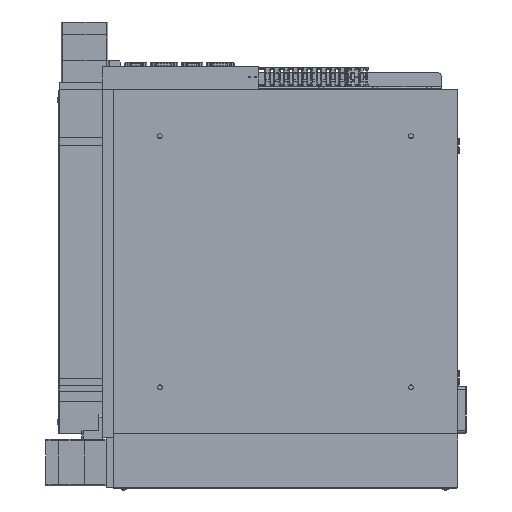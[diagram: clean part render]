
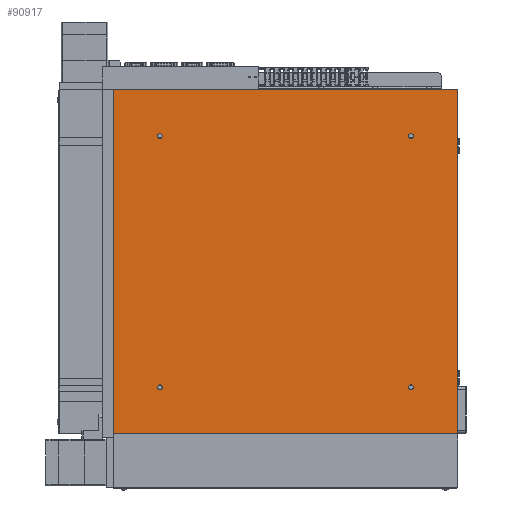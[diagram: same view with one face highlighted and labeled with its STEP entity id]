
A CAD part, front view. The second image highlights one B-rep face of the part: STEP entity #90917.
In plain terms, the highlighted planar face has unit normal (0, -1, 0).
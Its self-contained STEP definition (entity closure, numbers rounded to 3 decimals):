
#795 = EDGE_CURVE ( 'NONE', #26206, #36464, #74382, .T. ) ;
#935 = CARTESIAN_POINT ( 'NONE',  ( 175., 0., -178.3 ) ) ;
#1016 = ORIENTED_EDGE ( 'NONE', *, *, #795, .F. ) ;
#1356 = CARTESIAN_POINT ( 'NONE',  ( -240., 0., 240. ) ) ;
#1858 = CARTESIAN_POINT ( 'NONE',  ( 0., 0., 0. ) ) ;
#4284 = DIRECTION ( 'NONE',  ( 0., 1., 0. ) ) ;
#6906 = EDGE_CURVE ( 'NONE', #82538, #35343, #96440, .T. ) ;
#7181 = CARTESIAN_POINT ( 'NONE',  ( 240., 0., 240. ) ) ;
#7673 = CARTESIAN_POINT ( 'NONE',  ( -175., 0., 175. ) ) ;
#10388 = EDGE_CURVE ( 'NONE', #89513, #35816, #91982, .T. ) ;
#10551 = LINE ( 'NONE', #40916, #67894 ) ;
#10849 = EDGE_CURVE ( 'NONE', #74156, #59753, #45078, .T. ) ;
#12095 = CARTESIAN_POINT ( 'NONE',  ( 175., 0., 178.3 ) ) ;
#12427 = DIRECTION ( 'NONE',  ( 0., 0., 1. ) ) ;
#14030 = AXIS2_PLACEMENT_3D ( 'NONE', #40381, #55819, #78997 ) ;
#14990 = DIRECTION ( 'NONE',  ( 0., 1., 0. ) ) ;
#15414 = FACE_BOUND ( 'NONE', #65231, .T. ) ;
#15598 = VERTEX_POINT ( 'NONE', #94403 ) ;
#16305 = EDGE_CURVE ( 'NONE', #16948, #26206, #44419, .T. ) ;
#16359 = CARTESIAN_POINT ( 'NONE',  ( -240., 0., 240. ) ) ;
#16511 = AXIS2_PLACEMENT_3D ( 'NONE', #88820, #96749, #44381 ) ;
#16948 = VERTEX_POINT ( 'NONE', #40715 ) ;
#18549 = DIRECTION ( 'NONE',  ( 0., 0., 1. ) ) ;
#20271 = AXIS2_PLACEMENT_3D ( 'NONE', #67169, #44899, #58712 ) ;
#21843 = DIRECTION ( 'NONE',  ( 0., 0., 1. ) ) ;
#22105 = VECTOR ( 'NONE', #59618, 1000. ) ;
#22971 = AXIS2_PLACEMENT_3D ( 'NONE', #49119, #4284, #12427 ) ;
#22988 = DIRECTION ( 'NONE',  ( 0., 1., 0. ) ) ;
#26206 = VERTEX_POINT ( 'NONE', #1356 ) ;
#26762 = ORIENTED_EDGE ( 'NONE', *, *, #61942, .F. ) ;
#27323 = LINE ( 'NONE', #29476, #73009 ) ;
#28811 = ORIENTED_EDGE ( 'NONE', *, *, #16305, .F. ) ;
#28866 = AXIS2_PLACEMENT_3D ( 'NONE', #1858, #32484, #84909 ) ;
#29421 = CIRCLE ( 'NONE', #16511, 3.3 ) ;
#29476 = CARTESIAN_POINT ( 'NONE',  ( -240., 0., -240. ) ) ;
#32484 = DIRECTION ( 'NONE',  ( 0., 1., 0. ) ) ;
#32677 = EDGE_LOOP ( 'NONE', ( #41788, #48186 ) ) ;
#33067 = DIRECTION ( 'NONE',  ( 0., 0., 1. ) ) ;
#34164 = EDGE_CURVE ( 'NONE', #35343, #82538, #71459, .T. ) ;
#35343 = VERTEX_POINT ( 'NONE', #67378 ) ;
#35816 = VERTEX_POINT ( 'NONE', #80030 ) ;
#36257 = DIRECTION ( 'NONE',  ( 1., 0., 0. ) ) ;
#36464 = VERTEX_POINT ( 'NONE', #7181 ) ;
#37510 = AXIS2_PLACEMENT_3D ( 'NONE', #54138, #47881, #33067 ) ;
#39795 = EDGE_CURVE ( 'NONE', #59753, #74156, #29421, .T. ) ;
#40092 = DIRECTION ( 'NONE',  ( 0., 1., 0. ) ) ;
#40381 = CARTESIAN_POINT ( 'NONE',  ( -175., 0., -175. ) ) ;
#40715 = CARTESIAN_POINT ( 'NONE',  ( -240., 0., -240. ) ) ;
#40916 = CARTESIAN_POINT ( 'NONE',  ( 240., 0., -240. ) ) ;
#41788 = ORIENTED_EDGE ( 'NONE', *, *, #6906, .T. ) ;
#44381 = DIRECTION ( 'NONE',  ( 0., 0., 1. ) ) ;
#44419 = LINE ( 'NONE', #60224, #22105 ) ;
#44632 = CARTESIAN_POINT ( 'NONE',  ( -175., 0., 178.3 ) ) ;
#44899 = DIRECTION ( 'NONE',  ( 0., 1., 0. ) ) ;
#45078 = CIRCLE ( 'NONE', #93700, 3.3 ) ;
#45120 = VECTOR ( 'NONE', #36257, 1000. ) ;
#45670 = EDGE_CURVE ( 'NONE', #35816, #89513, #58337, .T. ) ;
#45749 = EDGE_LOOP ( 'NONE', ( #28811, #53516, #26762, #1016 ) ) ;
#47881 = DIRECTION ( 'NONE',  ( 0., 1., 0. ) ) ;
#48186 = ORIENTED_EDGE ( 'NONE', *, *, #34164, .T. ) ;
#48815 = DIRECTION ( 'NONE',  ( 0., 0., -1. ) ) ;
#49119 = CARTESIAN_POINT ( 'NONE',  ( 175., 0., 175. ) ) ;
#49438 = FACE_BOUND ( 'NONE', #52626, .T. ) ;
#52626 = EDGE_LOOP ( 'NONE', ( #59125, #95447 ) ) ;
#52876 = EDGE_LOOP ( 'NONE', ( #78844, #88951 ) ) ;
#53516 = ORIENTED_EDGE ( 'NONE', *, *, #60263, .F. ) ;
#54138 = CARTESIAN_POINT ( 'NONE',  ( -175., 0., -175. ) ) ;
#55819 = DIRECTION ( 'NONE',  ( 0., 1., 0. ) ) ;
#56227 = EDGE_CURVE ( 'NONE', #15598, #83457, #93850, .T. ) ;
#57991 = VERTEX_POINT ( 'NONE', #64296 ) ;
#58337 = CIRCLE ( 'NONE', #62286, 3.3 ) ;
#58712 = DIRECTION ( 'NONE',  ( 0., 0., 1. ) ) ;
#59125 = ORIENTED_EDGE ( 'NONE', *, *, #10849, .T. ) ;
#59618 = DIRECTION ( 'NONE',  ( 0., 0., 1. ) ) ;
#59753 = VERTEX_POINT ( 'NONE', #935 ) ;
#60224 = CARTESIAN_POINT ( 'NONE',  ( -240., 0., -240. ) ) ;
#60263 = EDGE_CURVE ( 'NONE', #57991, #16948, #27323, .T. ) ;
#61942 = EDGE_CURVE ( 'NONE', #36464, #57991, #10551, .T. ) ;
#62089 = CARTESIAN_POINT ( 'NONE',  ( 175., 0., -171.7 ) ) ;
#62286 = AXIS2_PLACEMENT_3D ( 'NONE', #7673, #22988, #75412 ) ;
#64296 = CARTESIAN_POINT ( 'NONE',  ( 240., 0., -240. ) ) ;
#65231 = EDGE_LOOP ( 'NONE', ( #87467, #87555 ) ) ;
#65782 = EDGE_CURVE ( 'NONE', #83457, #15598, #92508, .T. ) ;
#67169 = CARTESIAN_POINT ( 'NONE',  ( -175., 0., 175. ) ) ;
#67378 = CARTESIAN_POINT ( 'NONE',  ( 175., 0., 171.7 ) ) ;
#67894 = VECTOR ( 'NONE', #48815, 1000. ) ;
#70479 = FACE_BOUND ( 'NONE', #52876, .T. ) ;
#71459 = CIRCLE ( 'NONE', #74232, 3.3 ) ;
#73009 = VECTOR ( 'NONE', #88754, 1000. ) ;
#74156 = VERTEX_POINT ( 'NONE', #62089 ) ;
#74232 = AXIS2_PLACEMENT_3D ( 'NONE', #93127, #40092, #18549 ) ;
#74382 = LINE ( 'NONE', #16359, #45120 ) ;
#75412 = DIRECTION ( 'NONE',  ( 0., 0., 1. ) ) ;
#78844 = ORIENTED_EDGE ( 'NONE', *, *, #65782, .T. ) ;
#78997 = DIRECTION ( 'NONE',  ( 0., 0., 1. ) ) ;
#80030 = CARTESIAN_POINT ( 'NONE',  ( -175., 0., 171.7 ) ) ;
#81096 = CARTESIAN_POINT ( 'NONE',  ( 175., 0., -175. ) ) ;
#82538 = VERTEX_POINT ( 'NONE', #12095 ) ;
#83457 = VERTEX_POINT ( 'NONE', #84505 ) ;
#84505 = CARTESIAN_POINT ( 'NONE',  ( -175., 0., -171.7 ) ) ;
#84909 = DIRECTION ( 'NONE',  ( 0., 0., 1. ) ) ;
#85656 = FACE_BOUND ( 'NONE', #32677, .T. ) ;
#87467 = ORIENTED_EDGE ( 'NONE', *, *, #10388, .T. ) ;
#87555 = ORIENTED_EDGE ( 'NONE', *, *, #45670, .T. ) ;
#88754 = DIRECTION ( 'NONE',  ( -1., 0., 0. ) ) ;
#88820 = CARTESIAN_POINT ( 'NONE',  ( 175., 0., -175. ) ) ;
#88951 = ORIENTED_EDGE ( 'NONE', *, *, #56227, .T. ) ;
#89513 = VERTEX_POINT ( 'NONE', #44632 ) ;
#90917 = ADVANCED_FACE ( 'NONE', ( #15414, #70479, #49438, #85656, #92677 ), #91405, .F. ) ;
#91405 = PLANE ( 'NONE',  #28866 ) ;
#91982 = CIRCLE ( 'NONE', #20271, 3.3 ) ;
#92508 = CIRCLE ( 'NONE', #37510, 3.3 ) ;
#92677 = FACE_OUTER_BOUND ( 'NONE', #45749, .T. ) ;
#93127 = CARTESIAN_POINT ( 'NONE',  ( 175., 0., 175. ) ) ;
#93700 = AXIS2_PLACEMENT_3D ( 'NONE', #81096, #14990, #21843 ) ;
#93850 = CIRCLE ( 'NONE', #14030, 3.3 ) ;
#94403 = CARTESIAN_POINT ( 'NONE',  ( -175., 0., -178.3 ) ) ;
#95447 = ORIENTED_EDGE ( 'NONE', *, *, #39795, .T. ) ;
#96440 = CIRCLE ( 'NONE', #22971, 3.3 ) ;
#96749 = DIRECTION ( 'NONE',  ( 0., 1., 0. ) ) ;
